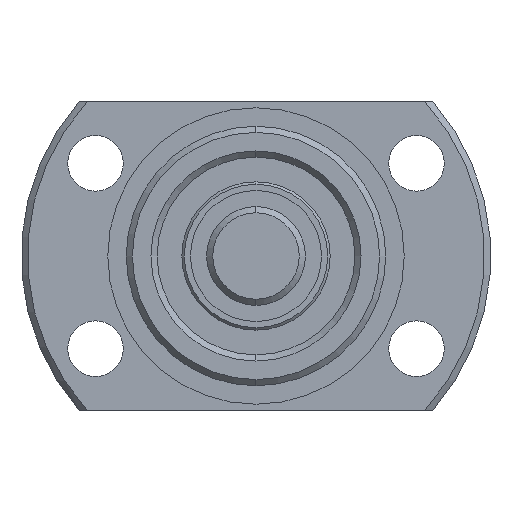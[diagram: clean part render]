
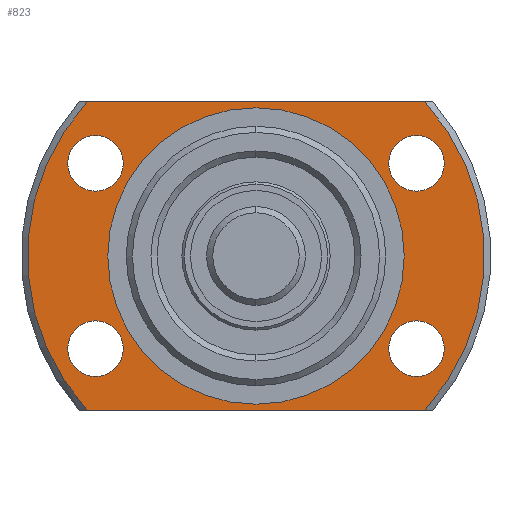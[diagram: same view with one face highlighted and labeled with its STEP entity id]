
A CAD part, left-side view. The second image highlights one B-rep face of the part: STEP entity #823.
In plain terms, the highlighted planar face has unit normal (-1, 0, 0).
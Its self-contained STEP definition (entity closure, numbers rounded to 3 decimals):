
#16 = EDGE_LOOP ( 'NONE', ( #1238, #1331 ) ) ;
#35 = VERTEX_POINT ( 'NONE', #1674 ) ;
#37 = VERTEX_POINT ( 'NONE', #1666 ) ;
#42 = VERTEX_POINT ( 'NONE', #1673 ) ;
#44 = VERTEX_POINT ( 'NONE', #1672 ) ;
#47 = VERTEX_POINT ( 'NONE', #1649 ) ;
#51 = VERTEX_POINT ( 'NONE', #1669 ) ;
#103 = VERTEX_POINT ( 'NONE', #1650 ) ;
#117 = EDGE_LOOP ( 'NONE', ( #1157, #1250 ) ) ;
#145 = EDGE_LOOP ( 'NONE', ( #1280, #1352 ) ) ;
#183 = EDGE_LOOP ( 'NONE', ( #1150, #1125 ) ) ;
#209 = EDGE_CURVE ( 'NONE', #305, #465, #2606, .T. ) ;
#220 = EDGE_CURVE ( 'NONE', #44, #35, #2632, .T. ) ;
#222 = EDGE_CURVE ( 'NONE', #380, #288, #2639, .T. ) ;
#225 = VERTEX_POINT ( 'NONE', #1868 ) ;
#230 = EDGE_CURVE ( 'NONE', #492, #37, #2635, .T. ) ;
#241 = EDGE_CURVE ( 'NONE', #103, #47, #2583, .T. ) ;
#251 = EDGE_LOOP ( 'NONE', ( #1233, #1358 ) ) ;
#288 = VERTEX_POINT ( 'NONE', #1908 ) ;
#305 = VERTEX_POINT ( 'NONE', #1818 ) ;
#314 = VERTEX_POINT ( 'NONE', #1855 ) ;
#380 = VERTEX_POINT ( 'NONE', #2413 ) ;
#429 = EDGE_LOOP ( 'NONE', ( #1194, #1348, #1153, #1267 ) ) ;
#465 = VERTEX_POINT ( 'NONE', #2345 ) ;
#492 = VERTEX_POINT ( 'NONE', #2393 ) ;
#497 = EDGE_CURVE ( 'NONE', #225, #465, #2643, .T. ) ;
#521 = CIRCLE ( 'NONE', #2848, 18.5 ) ;
#629 = CARTESIAN_POINT ( 'NONE',  ( -5., -12.99, -7.5 ) ) ;
#630 = DIRECTION ( 'NONE',  ( -1., 0., 0. ) ) ;
#631 = DIRECTION ( 'NONE',  ( 0., 0., 1. ) ) ;
#642 = CARTESIAN_POINT ( 'NONE',  ( -5., 12.99, 7.5 ) ) ;
#643 = DIRECTION ( 'NONE',  ( -1., 0., 0. ) ) ;
#644 = DIRECTION ( 'NONE',  ( 0., 0., 1. ) ) ;
#658 = AXIS2_PLACEMENT_3D ( 'NONE', #1817, #1921, #1915 ) ;
#661 = AXIS2_PLACEMENT_3D ( 'NONE', #2371, #2334, #2343 ) ;
#686 = AXIS2_PLACEMENT_3D ( 'NONE', #1726, #1723, #1727 ) ;
#823 = ADVANCED_FACE ( 'NONE', ( #2523, #2518, #2497, #2641, #2496, #2519 ), #1724, .T. ) ;
#901 = EDGE_CURVE ( 'NONE', #42, #51, #1558, .T. ) ;
#948 = AXIS2_PLACEMENT_3D ( 'NONE', #1812, #1893, #1810 ) ;
#949 = AXIS2_PLACEMENT_3D ( 'NONE', #1842, #1864, #1840 ) ;
#952 = AXIS2_PLACEMENT_3D ( 'NONE', #1803, #1808, #1882 ) ;
#1026 = DIRECTION ( 'NONE',  ( 1., 0., 0. ) ) ;
#1031 = DIRECTION ( 'NONE',  ( 0., 0., -1. ) ) ;
#1037 = CARTESIAN_POINT ( 'NONE',  ( -5., 0., 0. ) ) ;
#1125 = ORIENTED_EDGE ( 'NONE', *, *, #901, .T. ) ;
#1150 = ORIENTED_EDGE ( 'NONE', *, *, #2926, .T. ) ;
#1153 = ORIENTED_EDGE ( 'NONE', *, *, #2651, .F. ) ;
#1157 = ORIENTED_EDGE ( 'NONE', *, *, #2967, .F. ) ;
#1194 = ORIENTED_EDGE ( 'NONE', *, *, #497, .F. ) ;
#1233 = ORIENTED_EDGE ( 'NONE', *, *, #2980, .F. ) ;
#1238 = ORIENTED_EDGE ( 'NONE', *, *, #2983, .F. ) ;
#1250 = ORIENTED_EDGE ( 'NONE', *, *, #222, .F. ) ;
#1267 = ORIENTED_EDGE ( 'NONE', *, *, #209, .T. ) ;
#1280 = ORIENTED_EDGE ( 'NONE', *, *, #2972, .F. ) ;
#1331 = ORIENTED_EDGE ( 'NONE', *, *, #241, .F. ) ;
#1348 = ORIENTED_EDGE ( 'NONE', *, *, #2922, .T. ) ;
#1352 = ORIENTED_EDGE ( 'NONE', *, *, #230, .F. ) ;
#1358 = ORIENTED_EDGE ( 'NONE', *, *, #220, .F. ) ;
#1491 = CIRCLE ( 'NONE', #2896, 2.25 ) ;
#1494 = CIRCLE ( 'NONE', #2894, 2.25 ) ;
#1506 = CIRCLE ( 'NONE', #2891, 2.25 ) ;
#1512 = CIRCLE ( 'NONE', #2888, 2.25 ) ;
#1558 = CIRCLE ( 'NONE', #2768, 12. ) ;
#1612 = CARTESIAN_POINT ( 'NONE',  ( -5., 0., 0. ) ) ;
#1649 = CARTESIAN_POINT ( 'NONE',  ( -5., 12.99, -9.75 ) ) ;
#1650 = CARTESIAN_POINT ( 'NONE',  ( -5., 12.99, -5.25 ) ) ;
#1666 = CARTESIAN_POINT ( 'NONE',  ( -5., 12.99, 5.25 ) ) ;
#1669 = CARTESIAN_POINT ( 'NONE',  ( -5., 0., -12. ) ) ;
#1672 = CARTESIAN_POINT ( 'NONE',  ( -5., -12.99, 9.75 ) ) ;
#1673 = CARTESIAN_POINT ( 'NONE',  ( -5., 0., 12. ) ) ;
#1674 = CARTESIAN_POINT ( 'NONE',  ( -5., -12.99, 5.25 ) ) ;
#1723 = DIRECTION ( 'NONE',  ( -1., 0., 0. ) ) ;
#1724 = PLANE ( 'NONE',  #686 ) ;
#1726 = CARTESIAN_POINT ( 'NONE',  ( -5., 18.5, 0. ) ) ;
#1727 = DIRECTION ( 'NONE',  ( 0., 0., 1. ) ) ;
#1803 = CARTESIAN_POINT ( 'NONE',  ( -5., 12.99, 7.5 ) ) ;
#1808 = DIRECTION ( 'NONE',  ( -1., 0., 0. ) ) ;
#1810 = DIRECTION ( 'NONE',  ( 0., 0., 1. ) ) ;
#1812 = CARTESIAN_POINT ( 'NONE',  ( -5., -12.99, 7.5 ) ) ;
#1817 = CARTESIAN_POINT ( 'NONE',  ( -5., 12.99, -7.5 ) ) ;
#1818 = CARTESIAN_POINT ( 'NONE',  ( -5., 13.638, -12.5 ) ) ;
#1840 = DIRECTION ( 'NONE',  ( 0., 0., 1. ) ) ;
#1842 = CARTESIAN_POINT ( 'NONE',  ( -5., -12.99, -7.5 ) ) ;
#1855 = CARTESIAN_POINT ( 'NONE',  ( -5., 13.638, 12.5 ) ) ;
#1864 = DIRECTION ( 'NONE',  ( -1., 0., 0. ) ) ;
#1868 = CARTESIAN_POINT ( 'NONE',  ( -5., -13.638, 12.5 ) ) ;
#1877 = CARTESIAN_POINT ( 'NONE',  ( -5., 18.5, -12.5 ) ) ;
#1882 = DIRECTION ( 'NONE',  ( 0., 0., 1. ) ) ;
#1893 = DIRECTION ( 'NONE',  ( -1., 0., 0. ) ) ;
#1895 = DIRECTION ( 'NONE',  ( 0., -1., 0. ) ) ;
#1908 = CARTESIAN_POINT ( 'NONE',  ( -5., -12.99, -9.75 ) ) ;
#1915 = DIRECTION ( 'NONE',  ( 0., 0., 1. ) ) ;
#1921 = DIRECTION ( 'NONE',  ( -1., 0., 0. ) ) ;
#1945 = DIRECTION ( 'NONE',  ( 0., 0., -1. ) ) ;
#1962 = CARTESIAN_POINT ( 'NONE',  ( -5., 18.5, 12.5 ) ) ;
#1991 = DIRECTION ( 'NONE',  ( 0., 1., 0. ) ) ;
#1994 = DIRECTION ( 'NONE',  ( 1., 0., 0. ) ) ;
#1995 = CARTESIAN_POINT ( 'NONE',  ( -5., 0., 0. ) ) ;
#2034 = DIRECTION ( 'NONE',  ( 0., 0., -1. ) ) ;
#2035 = DIRECTION ( 'NONE',  ( 1., 0., 0. ) ) ;
#2155 = CARTESIAN_POINT ( 'NONE',  ( -5., -12.99, 7.5 ) ) ;
#2156 = DIRECTION ( 'NONE',  ( -1., 0., 0. ) ) ;
#2157 = DIRECTION ( 'NONE',  ( 0., 0., 1. ) ) ;
#2164 = CARTESIAN_POINT ( 'NONE',  ( -5., 12.99, -7.5 ) ) ;
#2165 = DIRECTION ( 'NONE',  ( -1., 0., 0. ) ) ;
#2166 = DIRECTION ( 'NONE',  ( 0., 0., 1. ) ) ;
#2334 = DIRECTION ( 'NONE',  ( 1., 0., 0. ) ) ;
#2343 = DIRECTION ( 'NONE',  ( 0., 0., -1. ) ) ;
#2345 = CARTESIAN_POINT ( 'NONE',  ( -5., -13.638, -12.5 ) ) ;
#2371 = CARTESIAN_POINT ( 'NONE',  ( -5., 0., 0. ) ) ;
#2393 = CARTESIAN_POINT ( 'NONE',  ( -5., 12.99, 9.75 ) ) ;
#2413 = CARTESIAN_POINT ( 'NONE',  ( -5., -12.99, -5.25 ) ) ;
#2496 = FACE_BOUND ( 'NONE', #183, .T. ) ;
#2497 = FACE_BOUND ( 'NONE', #145, .T. ) ;
#2518 = FACE_BOUND ( 'NONE', #251, .T. ) ;
#2519 = FACE_OUTER_BOUND ( 'NONE', #429, .T. ) ;
#2523 = FACE_BOUND ( 'NONE', #117, .T. ) ;
#2583 = CIRCLE ( 'NONE', #658, 2.25 ) ;
#2606 = LINE ( 'NONE', #1877, #2630 ) ;
#2630 = VECTOR ( 'NONE', #1895, 1000. ) ;
#2632 = CIRCLE ( 'NONE', #948, 2.25 ) ;
#2635 = CIRCLE ( 'NONE', #952, 2.25 ) ;
#2639 = CIRCLE ( 'NONE', #949, 2.25 ) ;
#2641 = FACE_BOUND ( 'NONE', #16, .T. ) ;
#2643 = CIRCLE ( 'NONE', #661, 18.5 ) ;
#2651 = EDGE_CURVE ( 'NONE', #305, #314, #521, .T. ) ;
#2768 = AXIS2_PLACEMENT_3D ( 'NONE', #1612, #2035, #2034 ) ;
#2848 = AXIS2_PLACEMENT_3D ( 'NONE', #1037, #1026, #1031 ) ;
#2866 = AXIS2_PLACEMENT_3D ( 'NONE', #1995, #1994, #1945 ) ;
#2888 = AXIS2_PLACEMENT_3D ( 'NONE', #629, #630, #631 ) ;
#2891 = AXIS2_PLACEMENT_3D ( 'NONE', #642, #643, #644 ) ;
#2894 = AXIS2_PLACEMENT_3D ( 'NONE', #2155, #2156, #2157 ) ;
#2896 = AXIS2_PLACEMENT_3D ( 'NONE', #2164, #2165, #2166 ) ;
#2922 = EDGE_CURVE ( 'NONE', #225, #314, #2999, .T. ) ;
#2926 = EDGE_CURVE ( 'NONE', #51, #42, #2995, .T. ) ;
#2967 = EDGE_CURVE ( 'NONE', #288, #380, #1512, .T. ) ;
#2972 = EDGE_CURVE ( 'NONE', #37, #492, #1506, .T. ) ;
#2980 = EDGE_CURVE ( 'NONE', #35, #44, #1494, .T. ) ;
#2983 = EDGE_CURVE ( 'NONE', #47, #103, #1491, .T. ) ;
#2995 = CIRCLE ( 'NONE', #2866, 12. ) ;
#2997 = VECTOR ( 'NONE', #1991, 1000. ) ;
#2999 = LINE ( 'NONE', #1962, #2997 ) ;
